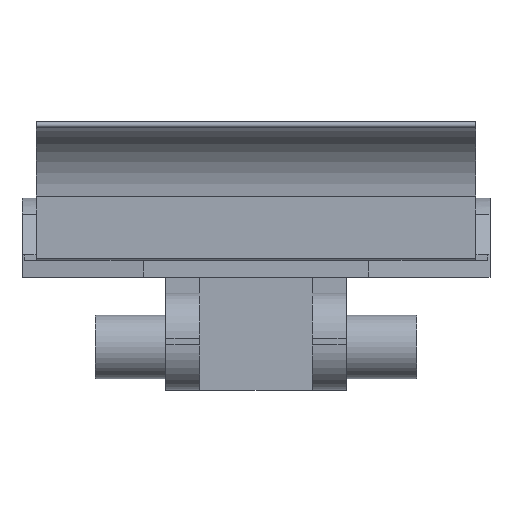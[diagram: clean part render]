
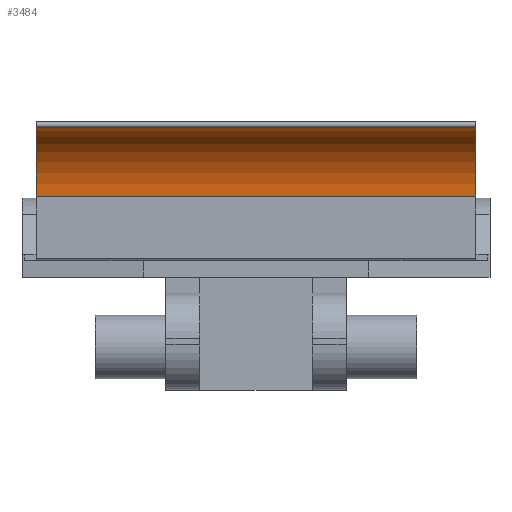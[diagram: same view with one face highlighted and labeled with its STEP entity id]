
A CAD part, front view. The second image highlights one B-rep face of the part: STEP entity #3484.
In plain terms, the highlighted cylindrical face has radius 12.5 mm (diameter 25 mm), a partial arc.
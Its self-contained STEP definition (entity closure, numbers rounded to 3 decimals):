
#148 = VECTOR ( 'NONE', #261, 1000. ) ;
#155 = EDGE_CURVE ( 'NONE', #3445, #3190, #3892, .T. ) ;
#261 = DIRECTION ( 'NONE',  ( -1., 0., 0. ) ) ;
#292 = DIRECTION ( 'NONE',  ( 0., 0., -1. ) ) ;
#346 = CARTESIAN_POINT ( 'NONE',  ( 189.1, 183.1, 42.511 ) ) ;
#572 = CIRCLE ( 'NONE', #2482, 12.5 ) ;
#819 = ORIENTED_EDGE ( 'NONE', *, *, #3536, .T. ) ;
#1190 = ORIENTED_EDGE ( 'NONE', *, *, #2043, .T. ) ;
#1573 = CARTESIAN_POINT ( 'NONE',  ( 189.1, 170.6, 42.511 ) ) ;
#1587 = CARTESIAN_POINT ( 'NONE',  ( 267.1, 170.6, 42.511 ) ) ;
#2043 = EDGE_CURVE ( 'NONE', #2204, #4547, #572, .T. ) ;
#2204 = VERTEX_POINT ( 'NONE', #2432 ) ;
#2432 = CARTESIAN_POINT ( 'NONE',  ( 189.1, 173.485, 54.673 ) ) ;
#2435 = LINE ( 'NONE', #346, #5393 ) ;
#2445 = DIRECTION ( 'NONE',  ( 1., 0., 0. ) ) ;
#2482 = AXIS2_PLACEMENT_3D ( 'NONE', #1573, #3238, #292 ) ;
#2664 = EDGE_LOOP ( 'NONE', ( #1190, #2718, #2908, #819 ) ) ;
#2699 = DIRECTION ( 'NONE',  ( 1., 0., 0. ) ) ;
#2718 = ORIENTED_EDGE ( 'NONE', *, *, #5152, .F. ) ;
#2847 = DIRECTION ( 'NONE',  ( 0., 0., -1. ) ) ;
#2908 = ORIENTED_EDGE ( 'NONE', *, *, #155, .T. ) ;
#3127 = FACE_OUTER_BOUND ( 'NONE', #2664, .T. ) ;
#3190 = VERTEX_POINT ( 'NONE', #5505 ) ;
#3238 = DIRECTION ( 'NONE',  ( -1., 0., 0. ) ) ;
#3304 = DIRECTION ( 'NONE',  ( -1., 0., 0. ) ) ;
#3445 = VERTEX_POINT ( 'NONE', #4838 ) ;
#3454 = AXIS2_PLACEMENT_3D ( 'NONE', #5267, #2699, #5288 ) ;
#3484 = ADVANCED_FACE ( 'NONE', ( #3127 ), #3860, .F. ) ;
#3536 = EDGE_CURVE ( 'NONE', #3190, #2204, #3807, .T. ) ;
#3807 = LINE ( 'NONE', #4461, #148 ) ;
#3860 = CYLINDRICAL_SURFACE ( 'NONE', #3454, 12.5 ) ;
#3892 = CIRCLE ( 'NONE', #4261, 12.5 ) ;
#4261 = AXIS2_PLACEMENT_3D ( 'NONE', #1587, #2445, #2847 ) ;
#4461 = CARTESIAN_POINT ( 'NONE',  ( 189.1, 173.485, 54.673 ) ) ;
#4547 = VERTEX_POINT ( 'NONE', #5047 ) ;
#4838 = CARTESIAN_POINT ( 'NONE',  ( 267.1, 183.1, 42.511 ) ) ;
#5047 = CARTESIAN_POINT ( 'NONE',  ( 189.1, 183.1, 42.511 ) ) ;
#5152 = EDGE_CURVE ( 'NONE', #3445, #4547, #2435, .T. ) ;
#5267 = CARTESIAN_POINT ( 'NONE',  ( 189.1, 170.6, 42.511 ) ) ;
#5288 = DIRECTION ( 'NONE',  ( 0., 0., -1. ) ) ;
#5393 = VECTOR ( 'NONE', #3304, 1000. ) ;
#5505 = CARTESIAN_POINT ( 'NONE',  ( 267.1, 173.485, 54.673 ) ) ;
